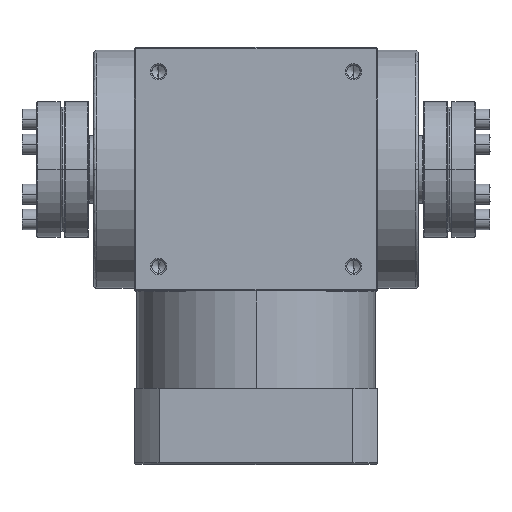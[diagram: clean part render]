
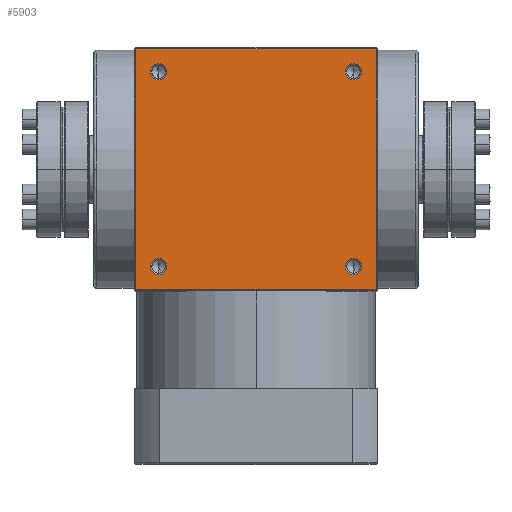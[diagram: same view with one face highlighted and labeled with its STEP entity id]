
A CAD part, top view. The second image highlights one B-rep face of the part: STEP entity #5903.
In plain terms, the highlighted planar face has unit normal (0, 0, 1).
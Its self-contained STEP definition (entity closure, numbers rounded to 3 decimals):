
#91 = VERTEX_POINT ( 'NONE', #17004 ) ;
#565 = CARTESIAN_POINT ( 'NONE',  ( -36., 36., 45. ) ) ;
#684 = CIRCLE ( 'NONE', #14940, 3. ) ;
#869 = ORIENTED_EDGE ( 'NONE', *, *, #1976, .F. ) ;
#882 = ORIENTED_EDGE ( 'NONE', *, *, #15483, .T. ) ;
#924 = FACE_BOUND ( 'NONE', #2721, .T. ) ;
#926 = AXIS2_PLACEMENT_3D ( 'NONE', #13856, #4843, #15412 ) ;
#1127 = CARTESIAN_POINT ( 'NONE',  ( 39., 36., 45. ) ) ;
#1177 = CARTESIAN_POINT ( 'NONE',  ( 0., 44.5, 45. ) ) ;
#1544 = ORIENTED_EDGE ( 'NONE', *, *, #14172, .F. ) ;
#1719 = VECTOR ( 'NONE', #10208, 1000. ) ;
#1834 = DIRECTION ( 'NONE',  ( 1., 0., 0. ) ) ;
#1858 = CIRCLE ( 'NONE', #926, 3. ) ;
#1976 = EDGE_CURVE ( 'NONE', #18874, #13911, #17935, .T. ) ;
#2041 = CARTESIAN_POINT ( 'NONE',  ( -36., -36., 45. ) ) ;
#2066 = DIRECTION ( 'NONE',  ( 1., 0., 0. ) ) ;
#2652 = LINE ( 'NONE', #18995, #5030 ) ;
#2664 = DIRECTION ( 'NONE',  ( 0., 0., 1. ) ) ;
#2721 = EDGE_LOOP ( 'NONE', ( #1544, #9741 ) ) ;
#2851 = ORIENTED_EDGE ( 'NONE', *, *, #17284, .F. ) ;
#2943 = VERTEX_POINT ( 'NONE', #12792 ) ;
#3056 = CARTESIAN_POINT ( 'NONE',  ( 39., -36., 45. ) ) ;
#3061 = CARTESIAN_POINT ( 'NONE',  ( -36., -36., 45. ) ) ;
#3191 = CARTESIAN_POINT ( 'NONE',  ( -33., 36., 45. ) ) ;
#3540 = DIRECTION ( 'NONE',  ( 1., 0., 0. ) ) ;
#3570 = AXIS2_PLACEMENT_3D ( 'NONE', #5294, #15876, #18327 ) ;
#4219 = PLANE ( 'NONE',  #8430 ) ;
#4565 = DIRECTION ( 'NONE',  ( 1., 0., 0. ) ) ;
#4596 = EDGE_CURVE ( 'NONE', #8660, #2943, #5542, .T. ) ;
#4620 = LINE ( 'NONE', #4885, #13241 ) ;
#4645 = VERTEX_POINT ( 'NONE', #3191 ) ;
#4678 = ORIENTED_EDGE ( 'NONE', *, *, #14695, .F. ) ;
#4843 = DIRECTION ( 'NONE',  ( 0., 0., 1. ) ) ;
#4885 = CARTESIAN_POINT ( 'NONE',  ( 0., -44.5, 45. ) ) ;
#5030 = VECTOR ( 'NONE', #8365, 1000. ) ;
#5167 = EDGE_CURVE ( 'NONE', #7710, #17499, #9863, .T. ) ;
#5294 = CARTESIAN_POINT ( 'NONE',  ( 36., -36., 45. ) ) ;
#5393 = CARTESIAN_POINT ( 'NONE',  ( -36., 36., 45. ) ) ;
#5542 = CIRCLE ( 'NONE', #9542, 3. ) ;
#5606 = EDGE_CURVE ( 'NONE', #91, #4645, #11410, .T. ) ;
#5833 = CARTESIAN_POINT ( 'NONE',  ( 44.5, -44.5, 45. ) ) ;
#5903 = ADVANCED_FACE ( 'NONE', ( #9495, #14202, #14270, #924, #14418 ), #4219, .F. ) ;
#6110 = ORIENTED_EDGE ( 'NONE', *, *, #18255, .F. ) ;
#6160 = CARTESIAN_POINT ( 'NONE',  ( 36., -36., 45. ) ) ;
#6581 = CARTESIAN_POINT ( 'NONE',  ( -44.5, 44.5, 45. ) ) ;
#6880 = DIRECTION ( 'NONE',  ( 1., 0., 0. ) ) ;
#7186 = CARTESIAN_POINT ( 'NONE',  ( 33., -36., 45. ) ) ;
#7628 = DIRECTION ( 'NONE',  ( 1., 0., 0. ) ) ;
#7710 = VERTEX_POINT ( 'NONE', #7186 ) ;
#8135 = DIRECTION ( 'NONE',  ( 1., 0., 0. ) ) ;
#8365 = DIRECTION ( 'NONE',  ( 0., -1., 0. ) ) ;
#8430 = AXIS2_PLACEMENT_3D ( 'NONE', #5833, #13342, #10323 ) ;
#8550 = CARTESIAN_POINT ( 'NONE',  ( 44.5, 44.5, 45. ) ) ;
#8660 = VERTEX_POINT ( 'NONE', #19161 ) ;
#8692 = CARTESIAN_POINT ( 'NONE',  ( -44.5, 0., 45. ) ) ;
#8712 = EDGE_CURVE ( 'NONE', #13823, #18874, #11419, .T. ) ;
#9495 = FACE_BOUND ( 'NONE', #18201, .T. ) ;
#9542 = AXIS2_PLACEMENT_3D ( 'NONE', #3061, #13579, #4565 ) ;
#9672 = CARTESIAN_POINT ( 'NONE',  ( 44.5, -44.5, 45. ) ) ;
#9741 = ORIENTED_EDGE ( 'NONE', *, *, #5167, .F. ) ;
#9788 = CIRCLE ( 'NONE', #11595, 3. ) ;
#9863 = CIRCLE ( 'NONE', #10418, 3. ) ;
#9896 = ORIENTED_EDGE ( 'NONE', *, *, #5606, .F. ) ;
#10208 = DIRECTION ( 'NONE',  ( 0., 1., 0. ) ) ;
#10323 = DIRECTION ( 'NONE',  ( -1., 0., 0. ) ) ;
#10418 = AXIS2_PLACEMENT_3D ( 'NONE', #6160, #16732, #7628 ) ;
#10495 = VERTEX_POINT ( 'NONE', #15008 ) ;
#11035 = DIRECTION ( 'NONE',  ( 0., 0., 1. ) ) ;
#11297 = VECTOR ( 'NONE', #8135, 1000. ) ;
#11410 = CIRCLE ( 'NONE', #19336, 3. ) ;
#11419 = LINE ( 'NONE', #8692, #1719 ) ;
#11595 = AXIS2_PLACEMENT_3D ( 'NONE', #5393, #15965, #6880 ) ;
#11645 = CARTESIAN_POINT ( 'NONE',  ( 36., 36., 45. ) ) ;
#11834 = AXIS2_PLACEMENT_3D ( 'NONE', #11645, #2664, #13194 ) ;
#11851 = CIRCLE ( 'NONE', #3570, 3. ) ;
#12555 = DIRECTION ( 'NONE',  ( 0., 0., 1. ) ) ;
#12752 = ORIENTED_EDGE ( 'NONE', *, *, #4596, .F. ) ;
#12792 = CARTESIAN_POINT ( 'NONE',  ( -33., -36., 45. ) ) ;
#13194 = DIRECTION ( 'NONE',  ( 1., 0., 0. ) ) ;
#13241 = VECTOR ( 'NONE', #1834, 1000. ) ;
#13342 = DIRECTION ( 'NONE',  ( 0., 0., -1. ) ) ;
#13579 = DIRECTION ( 'NONE',  ( 0., 0., 1. ) ) ;
#13700 = EDGE_LOOP ( 'NONE', ( #4678, #12752 ) ) ;
#13823 = VERTEX_POINT ( 'NONE', #14528 ) ;
#13856 = CARTESIAN_POINT ( 'NONE',  ( 36., 36., 45. ) ) ;
#13899 = VERTEX_POINT ( 'NONE', #1127 ) ;
#13911 = VERTEX_POINT ( 'NONE', #8550 ) ;
#14172 = EDGE_CURVE ( 'NONE', #17499, #7710, #11851, .T. ) ;
#14202 = FACE_BOUND ( 'NONE', #16461, .T. ) ;
#14242 = EDGE_CURVE ( 'NONE', #4645, #91, #9788, .T. ) ;
#14270 = FACE_BOUND ( 'NONE', #13700, .T. ) ;
#14271 = EDGE_CURVE ( 'NONE', #13911, #15230, #2652, .T. ) ;
#14354 = ORIENTED_EDGE ( 'NONE', *, *, #8712, .F. ) ;
#14418 = FACE_OUTER_BOUND ( 'NONE', #15053, .T. ) ;
#14528 = CARTESIAN_POINT ( 'NONE',  ( -44.5, -44.5, 45. ) ) ;
#14695 = EDGE_CURVE ( 'NONE', #2943, #8660, #684, .T. ) ;
#14940 = AXIS2_PLACEMENT_3D ( 'NONE', #2041, #12555, #3540 ) ;
#15008 = CARTESIAN_POINT ( 'NONE',  ( 33., 36., 45. ) ) ;
#15053 = EDGE_LOOP ( 'NONE', ( #882, #18418, #869, #14354 ) ) ;
#15230 = VERTEX_POINT ( 'NONE', #9672 ) ;
#15412 = DIRECTION ( 'NONE',  ( 1., 0., 0. ) ) ;
#15483 = EDGE_CURVE ( 'NONE', #13823, #15230, #4620, .T. ) ;
#15876 = DIRECTION ( 'NONE',  ( 0., 0., 1. ) ) ;
#15965 = DIRECTION ( 'NONE',  ( 0., 0., 1. ) ) ;
#16461 = EDGE_LOOP ( 'NONE', ( #2851, #6110 ) ) ;
#16732 = DIRECTION ( 'NONE',  ( 0., 0., 1. ) ) ;
#17004 = CARTESIAN_POINT ( 'NONE',  ( -39., 36., 45. ) ) ;
#17284 = EDGE_CURVE ( 'NONE', #13899, #10495, #18843, .T. ) ;
#17499 = VERTEX_POINT ( 'NONE', #3056 ) ;
#17935 = LINE ( 'NONE', #1177, #11297 ) ;
#18201 = EDGE_LOOP ( 'NONE', ( #18999, #9896 ) ) ;
#18255 = EDGE_CURVE ( 'NONE', #10495, #13899, #1858, .T. ) ;
#18327 = DIRECTION ( 'NONE',  ( 1., 0., 0. ) ) ;
#18418 = ORIENTED_EDGE ( 'NONE', *, *, #14271, .F. ) ;
#18843 = CIRCLE ( 'NONE', #11834, 3. ) ;
#18874 = VERTEX_POINT ( 'NONE', #6581 ) ;
#18995 = CARTESIAN_POINT ( 'NONE',  ( 44.5, 0., 45. ) ) ;
#18999 = ORIENTED_EDGE ( 'NONE', *, *, #14242, .F. ) ;
#19161 = CARTESIAN_POINT ( 'NONE',  ( -39., -36., 45. ) ) ;
#19336 = AXIS2_PLACEMENT_3D ( 'NONE', #565, #11035, #2066 ) ;
